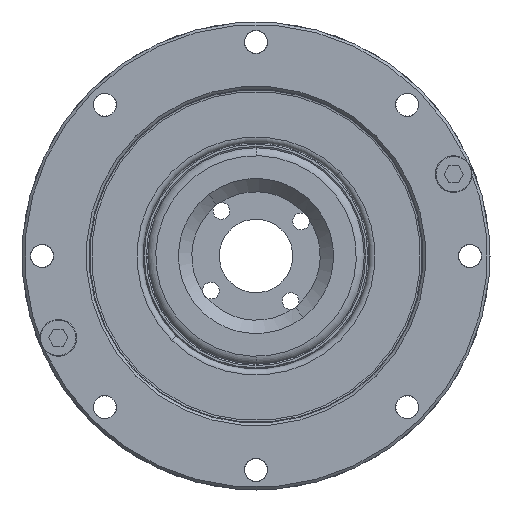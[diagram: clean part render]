
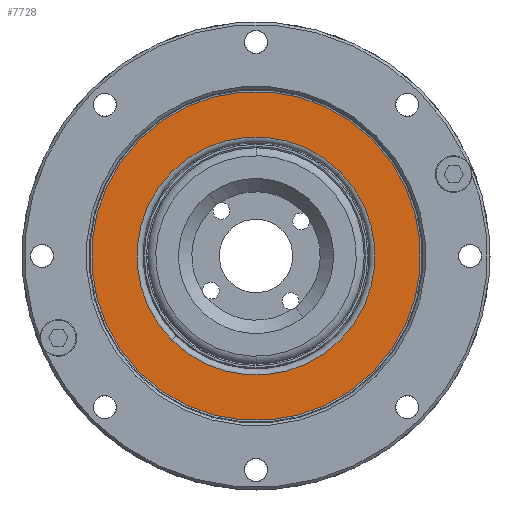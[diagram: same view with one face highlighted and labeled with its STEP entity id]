
A CAD part, left-side view. The second image highlights one B-rep face of the part: STEP entity #7728.
In plain terms, the highlighted planar face has unit normal (-1, 0, 0).
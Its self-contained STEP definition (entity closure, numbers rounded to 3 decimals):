
#108 = EDGE_CURVE ( 'NONE', #7329, #397, #7348, .T. ) ;
#264 = CARTESIAN_POINT ( 'NONE',  ( 2.21, 24.615, 0. ) ) ;
#397 = VERTEX_POINT ( 'NONE', #6959 ) ;
#415 = ORIENTED_EDGE ( 'NONE', *, *, #13923, .F. ) ;
#551 = CIRCLE ( 'NONE', #10354, 24.615 ) ;
#923 = AXIS2_PLACEMENT_3D ( 'NONE', #4818, #12427, #5902 ) ;
#1124 = DIRECTION ( 'NONE',  ( -1., 0., 0. ) ) ;
#1836 = CIRCLE ( 'NONE', #8035, 24.615 ) ;
#1925 = ORIENTED_EDGE ( 'NONE', *, *, #108, .F. ) ;
#2147 = CARTESIAN_POINT ( 'NONE',  ( 2.21, 0., -17.808 ) ) ;
#2195 = EDGE_LOOP ( 'NONE', ( #10943, #4570 ) ) ;
#2223 = AXIS2_PLACEMENT_3D ( 'NONE', #264, #10032, #3539 ) ;
#2312 = EDGE_CURVE ( 'NONE', #5959, #5021, #551, .T. ) ;
#2445 = PLANE ( 'NONE',  #2223 ) ;
#3539 = DIRECTION ( 'NONE',  ( 0., 0., -1. ) ) ;
#4459 = EDGE_CURVE ( 'NONE', #5021, #5959, #1836, .T. ) ;
#4570 = ORIENTED_EDGE ( 'NONE', *, *, #2312, .T. ) ;
#4818 = CARTESIAN_POINT ( 'NONE',  ( 2.21, 0., 0. ) ) ;
#5021 = VERTEX_POINT ( 'NONE', #9232 ) ;
#5514 = DIRECTION ( 'NONE',  ( -1., 0., 0. ) ) ;
#5902 = DIRECTION ( 'NONE',  ( 0., 0., 1. ) ) ;
#5959 = VERTEX_POINT ( 'NONE', #13364 ) ;
#6005 = DIRECTION ( 'NONE',  ( -1., 0., 0. ) ) ;
#6680 = CIRCLE ( 'NONE', #923, 17.808 ) ;
#6959 = CARTESIAN_POINT ( 'NONE',  ( 2.21, 0., 17.808 ) ) ;
#7329 = VERTEX_POINT ( 'NONE', #2147 ) ;
#7348 = CIRCLE ( 'NONE', #8263, 17.808 ) ;
#7728 = ADVANCED_FACE ( 'NONE', ( #13429, #10890 ), #2445, .F. ) ;
#8035 = AXIS2_PLACEMENT_3D ( 'NONE', #12536, #6005, #13614 ) ;
#8263 = AXIS2_PLACEMENT_3D ( 'NONE', #14011, #1124, #9710 ) ;
#8543 = EDGE_LOOP ( 'NONE', ( #415, #1925 ) ) ;
#9232 = CARTESIAN_POINT ( 'NONE',  ( 2.21, 0., 24.615 ) ) ;
#9710 = DIRECTION ( 'NONE',  ( 0., 0., 1. ) ) ;
#10032 = DIRECTION ( 'NONE',  ( 1., 0., 0. ) ) ;
#10354 = AXIS2_PLACEMENT_3D ( 'NONE', #12012, #5514, #13122 ) ;
#10890 = FACE_OUTER_BOUND ( 'NONE', #2195, .T. ) ;
#10943 = ORIENTED_EDGE ( 'NONE', *, *, #4459, .T. ) ;
#12012 = CARTESIAN_POINT ( 'NONE',  ( 2.21, 0., 0. ) ) ;
#12427 = DIRECTION ( 'NONE',  ( -1., 0., 0. ) ) ;
#12536 = CARTESIAN_POINT ( 'NONE',  ( 2.21, 0., 0. ) ) ;
#13122 = DIRECTION ( 'NONE',  ( 0., 0., 1. ) ) ;
#13364 = CARTESIAN_POINT ( 'NONE',  ( 2.21, 0., -24.615 ) ) ;
#13429 = FACE_BOUND ( 'NONE', #8543, .T. ) ;
#13614 = DIRECTION ( 'NONE',  ( 0., 0., 1. ) ) ;
#13923 = EDGE_CURVE ( 'NONE', #397, #7329, #6680, .T. ) ;
#14011 = CARTESIAN_POINT ( 'NONE',  ( 2.21, 0., 0. ) ) ;
